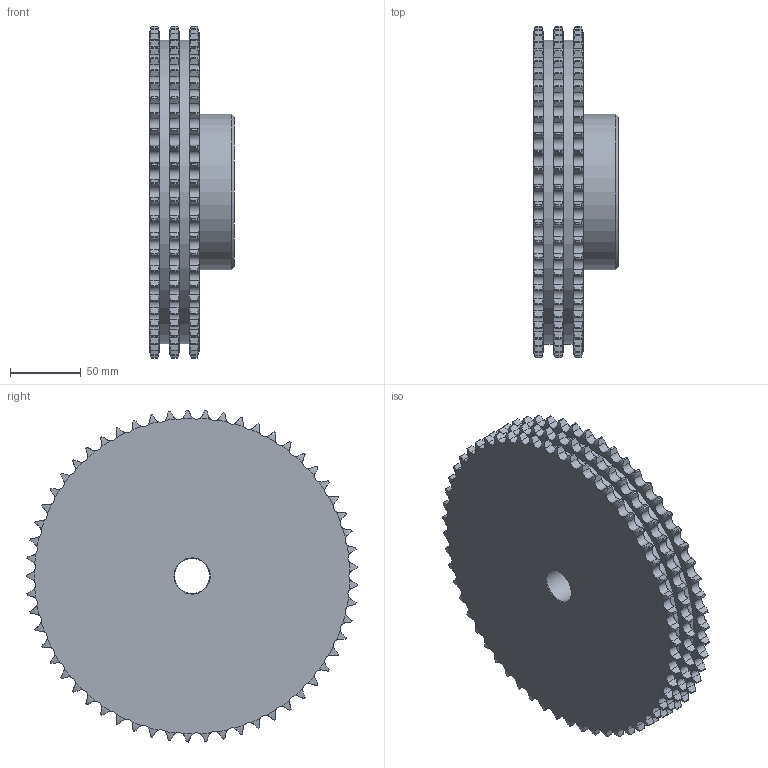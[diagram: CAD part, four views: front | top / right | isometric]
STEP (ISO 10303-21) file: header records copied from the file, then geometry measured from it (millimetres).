
FILE_DESCRIPTION(/* description */ (''),/* implementation_level */ '2;1');
FILE_NAME(/* name */ 'C:\Users\stagistaCAD\Desktop\10312057.stp',/* time_stamp */ '2018-06-22T12:21:21+02:00',/* author */ ('stagistacad'),/* organization */ (''),/* preprocessor_version */ 'ST-DEVELOPER v15.6',/* originating_system */ 'Autodesk Inventor 2015',/* authorisation */ '');
FILE_SCHEMA (('AUTOMOTIVE_DESIGN { 1 0 10303 214 3 1 1 }'));
Length unit declared in the file: millimetre
Products named in the file (1): 10312057
Bounding box: 60 x 234.88 x 234.97 mm (x, y, z)
Volume: 1561843.5 mm3; surface area: 139401.3 mm2
Topology: 1 solids, 1 shells, 1073 faces, 3195 edges, 2129 vertices
Faces by surface type: cylinder 721, torus 342, plane 7, cone 3
Full cylindrical faces by diameter (mm): 24.7 x1, 110 x1, 215.03 x2
Entity records: 40461 total; most frequent: CARTESIAN_POINT 13267, ORIENTED_EDGE 6376, DIRECTION 5071, EDGE_CURVE 3188, AXIS2_PLACEMENT_3D 2177, VERTEX_POINT 2129, B_SPLINE_CURVE_WITH_KNOTS 1368, CIRCLE 1103
